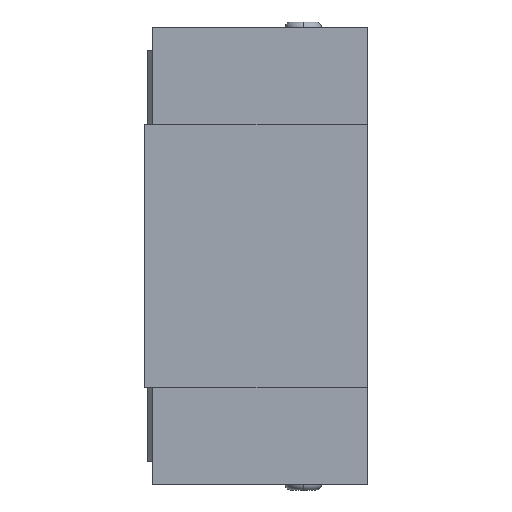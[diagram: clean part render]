
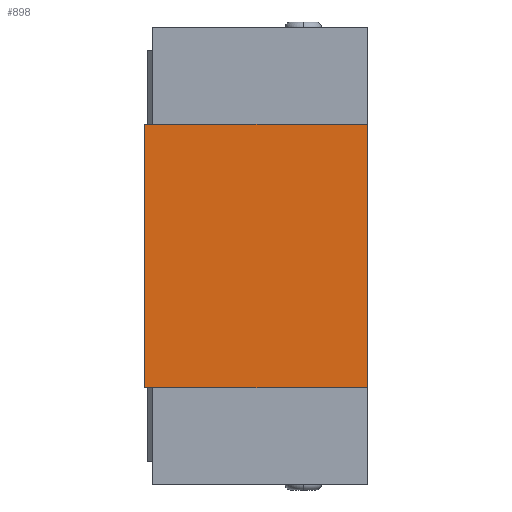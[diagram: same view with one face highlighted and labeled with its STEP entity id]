
A CAD part, left-side view. The second image highlights one B-rep face of the part: STEP entity #898.
In plain terms, the highlighted planar face has unit normal (-1, 0, 0).
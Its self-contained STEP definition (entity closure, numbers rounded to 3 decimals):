
#181 = CARTESIAN_POINT ( 'NONE',  ( -17., 0., 23.1 ) ) ;
#184 = VERTEX_POINT ( 'NONE', #6549 ) ;
#263 = LINE ( 'NONE', #2216, #3088 ) ;
#272 = CARTESIAN_POINT ( 'NONE',  ( -17., 0., 0. ) ) ;
#294 = CARTESIAN_POINT ( 'NONE',  ( -17., 0., 0. ) ) ;
#365 = LINE ( 'NONE', #294, #1515 ) ;
#417 = ORIENTED_EDGE ( 'NONE', *, *, #6205, .F. ) ;
#575 = VECTOR ( 'NONE', #3572, 1000. ) ;
#851 = DIRECTION ( 'NONE',  ( 0., -1., 0. ) ) ;
#898 = ADVANCED_FACE ( 'NONE', ( #6624 ), #2251, .T. ) ;
#1376 = CARTESIAN_POINT ( 'NONE',  ( -17., -19.5, 23.1 ) ) ;
#1515 = VECTOR ( 'NONE', #851, 1000. ) ;
#1903 = CARTESIAN_POINT ( 'NONE',  ( -17., -19.5, 23.1 ) ) ;
#2203 = VERTEX_POINT ( 'NONE', #1903 ) ;
#2216 = CARTESIAN_POINT ( 'NONE',  ( -17., 0., 23.1 ) ) ;
#2251 = PLANE ( 'NONE',  #3900 ) ;
#2271 = EDGE_CURVE ( 'NONE', #2203, #184, #3690, .T. ) ;
#2647 = VERTEX_POINT ( 'NONE', #272 ) ;
#2777 = VERTEX_POINT ( 'NONE', #7024 ) ;
#2800 = CARTESIAN_POINT ( 'NONE',  ( -17., 0., 23.1 ) ) ;
#2832 = DIRECTION ( 'NONE',  ( 0., 0., 1. ) ) ;
#3088 = VECTOR ( 'NONE', #3936, 1000. ) ;
#3341 = EDGE_CURVE ( 'NONE', #2777, #2647, #6703, .T. ) ;
#3572 = DIRECTION ( 'NONE',  ( 0., 0., -1. ) ) ;
#3686 = ORIENTED_EDGE ( 'NONE', *, *, #2271, .F. ) ;
#3690 = LINE ( 'NONE', #1376, #6800 ) ;
#3900 = AXIS2_PLACEMENT_3D ( 'NONE', #2800, #6306, #2832 ) ;
#3936 = DIRECTION ( 'NONE',  ( 0., -1., 0. ) ) ;
#4415 = EDGE_LOOP ( 'NONE', ( #3686, #417, #5217, #4993 ) ) ;
#4993 = ORIENTED_EDGE ( 'NONE', *, *, #5318, .T. ) ;
#5217 = ORIENTED_EDGE ( 'NONE', *, *, #3341, .T. ) ;
#5318 = EDGE_CURVE ( 'NONE', #2647, #184, #365, .T. ) ;
#5376 = DIRECTION ( 'NONE',  ( 0., 0., -1. ) ) ;
#6205 = EDGE_CURVE ( 'NONE', #2777, #2203, #263, .T. ) ;
#6306 = DIRECTION ( 'NONE',  ( -1., 0., 0. ) ) ;
#6549 = CARTESIAN_POINT ( 'NONE',  ( -17., -19.5, 0. ) ) ;
#6624 = FACE_OUTER_BOUND ( 'NONE', #4415, .T. ) ;
#6703 = LINE ( 'NONE', #181, #575 ) ;
#6800 = VECTOR ( 'NONE', #5376, 1000. ) ;
#7024 = CARTESIAN_POINT ( 'NONE',  ( -17., 0., 23.1 ) ) ;
